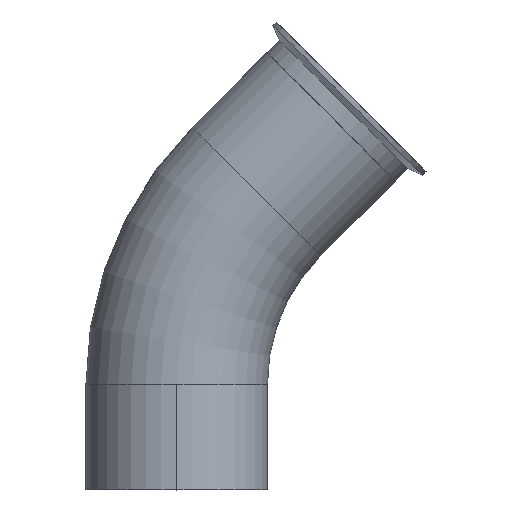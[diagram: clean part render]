
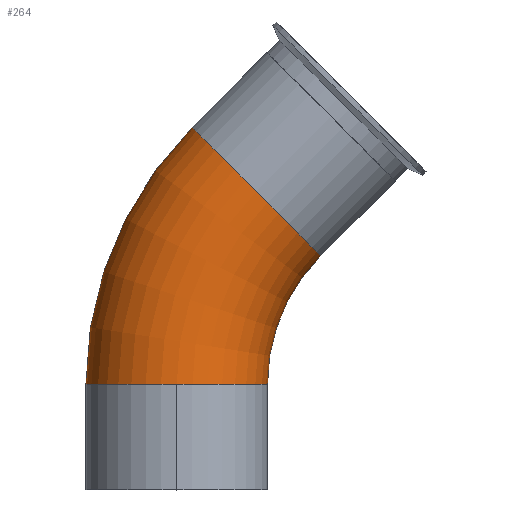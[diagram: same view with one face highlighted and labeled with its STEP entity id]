
A CAD part, top view. The second image highlights one B-rep face of the part: STEP entity #264.
In plain terms, the highlighted toroidal (fillet/blend) face has major radius 152.4 mm and minor radius 50.8 mm.
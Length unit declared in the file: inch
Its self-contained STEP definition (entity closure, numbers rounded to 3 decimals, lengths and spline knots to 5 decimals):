
#2 = EDGE_CURVE ( 'NONE', #937, #831, #226, .T. ) ;
#12 = CARTESIAN_POINT ( 'NONE',  ( 8.57643, 5.25994, 9.349 ) ) ;
#95 = AXIS2_PLACEMENT_3D ( 'NONE', #881, #826, #669 ) ;
#129 = VERTEX_POINT ( 'NONE', #798 ) ;
#131 = CIRCLE ( 'NONE', #592, 2. ) ;
#161 = AXIS2_PLACEMENT_3D ( 'NONE', #382, #890, #455 ) ;
#197 = CARTESIAN_POINT ( 'NONE',  ( 2.91958, 10.9168, 9.349 ) ) ;
#226 = CIRCLE ( 'NONE', #95, 4. ) ;
#235 = ORIENTED_EDGE ( 'NONE', *, *, #700, .T. ) ;
#239 = FACE_OUTER_BOUND ( 'NONE', #380, .T. ) ;
#247 = CIRCLE ( 'NONE', #859, 2. ) ;
#258 = DIRECTION ( 'NONE',  ( 0., 0., 1. ) ) ;
#264 = ADVANCED_FACE ( 'NONE', ( #239 ), #286, .T. ) ;
#286 = TOROIDAL_SURFACE ( 'NONE', #442, 6., 2. ) ;
#296 = CIRCLE ( 'NONE', #902, 8. ) ;
#301 = DIRECTION ( 'NONE',  ( 0., 0., 1. ) ) ;
#322 = ORIENTED_EDGE ( 'NONE', *, *, #392, .T. ) ;
#336 = CARTESIAN_POINT ( 'NONE',  ( 5.748, 8.08837, 9.349 ) ) ;
#380 = EDGE_LOOP ( 'NONE', ( #684, #235, #877, #322, #817 ) ) ;
#382 = CARTESIAN_POINT ( 'NONE',  ( 2.57643, 5.25994, 9.349 ) ) ;
#392 = EDGE_CURVE ( 'NONE', #129, #831, #521, .T. ) ;
#397 = DIRECTION ( 'NONE',  ( 0.707, 0.707, 0. ) ) ;
#424 = CARTESIAN_POINT ( 'NONE',  ( 2.57643, 5.25994, 9.349 ) ) ;
#442 = AXIS2_PLACEMENT_3D ( 'NONE', #12, #301, #645 ) ;
#455 = DIRECTION ( 'NONE',  ( -1., 0., 0. ) ) ;
#492 = DIRECTION ( 'NONE',  ( -1., 0., 0. ) ) ;
#520 = VERTEX_POINT ( 'NONE', #842 ) ;
#521 = CIRCLE ( 'NONE', #161, 2. ) ;
#551 = CARTESIAN_POINT ( 'NONE',  ( 4.57643, 5.25994, 9.349 ) ) ;
#592 = AXIS2_PLACEMENT_3D ( 'NONE', #424, #929, #492 ) ;
#612 = EDGE_CURVE ( 'NONE', #520, #129, #131, .T. ) ;
#645 = DIRECTION ( 'NONE',  ( 1., 0., 0. ) ) ;
#669 = DIRECTION ( 'NONE',  ( 1., 0., 0. ) ) ;
#678 = CARTESIAN_POINT ( 'NONE',  ( 8.57643, 5.25994, 9.349 ) ) ;
#684 = ORIENTED_EDGE ( 'NONE', *, *, #815, .F. ) ;
#700 = EDGE_CURVE ( 'NONE', #733, #520, #296, .T. ) ;
#708 = CARTESIAN_POINT ( 'NONE',  ( 4.33379, 9.50258, 9.349 ) ) ;
#733 = VERTEX_POINT ( 'NONE', #197 ) ;
#755 = DIRECTION ( 'NONE',  ( 1., 0., 0. ) ) ;
#798 = CARTESIAN_POINT ( 'NONE',  ( 2.57643, 5.25994, 11.349 ) ) ;
#815 = EDGE_CURVE ( 'NONE', #733, #937, #247, .T. ) ;
#817 = ORIENTED_EDGE ( 'NONE', *, *, #2, .F. ) ;
#826 = DIRECTION ( 'NONE',  ( 0., 0., 1. ) ) ;
#831 = VERTEX_POINT ( 'NONE', #551 ) ;
#842 = CARTESIAN_POINT ( 'NONE',  ( 0.57643, 5.25994, 9.349 ) ) ;
#859 = AXIS2_PLACEMENT_3D ( 'NONE', #708, #397, #905 ) ;
#877 = ORIENTED_EDGE ( 'NONE', *, *, #612, .T. ) ;
#881 = CARTESIAN_POINT ( 'NONE',  ( 8.57643, 5.25994, 9.349 ) ) ;
#890 = DIRECTION ( 'NONE',  ( 0., 1., 0. ) ) ;
#902 = AXIS2_PLACEMENT_3D ( 'NONE', #678, #258, #755 ) ;
#905 = DIRECTION ( 'NONE',  ( -0.707, 0.707, 0. ) ) ;
#929 = DIRECTION ( 'NONE',  ( 0., 1., 0. ) ) ;
#937 = VERTEX_POINT ( 'NONE', #336 ) ;
